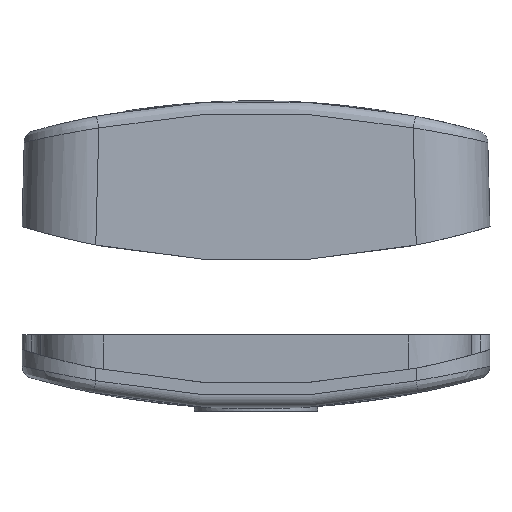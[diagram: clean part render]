
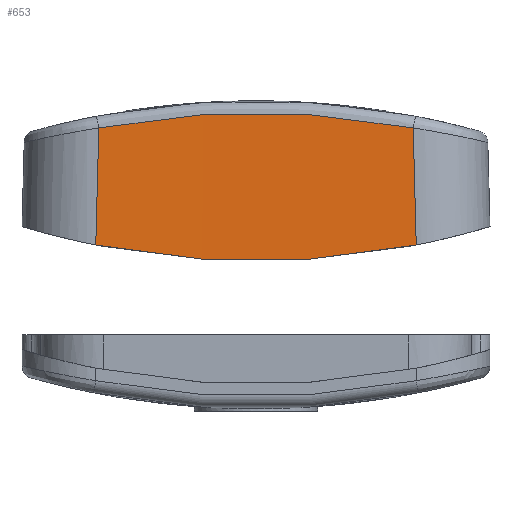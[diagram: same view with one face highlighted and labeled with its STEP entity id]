
A CAD part, front view. The second image highlights one B-rep face of the part: STEP entity #653.
In plain terms, the highlighted free-form (B-spline) face has degree [2, 1] with [3, 2] control points.
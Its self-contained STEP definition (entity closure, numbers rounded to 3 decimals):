
#308=(
BOUNDED_CURVE()
B_SPLINE_CURVE(3,(#8792,#8793,#8794,#8795,#8796,#8797,#8798,#8799,#8800,
#8801,#8802,#8803,#8804,#8805,#8806,#8807,#8808,#8809,#8810,#8811),
 .UNSPECIFIED.,.F.,.F.)
B_SPLINE_CURVE_WITH_KNOTS((4,1,1,1,1,1,1,1,1,1,1,1,1,1,1,1,1,4),(0.,0.07,
0.13,0.182,0.242,0.295,
0.355,0.407,0.467,0.52,
0.58,0.632,0.692,0.745,
0.805,0.857,0.91,1.),.UNSPECIFIED.)
CURVE()
GEOMETRIC_REPRESENTATION_ITEM()
RATIONAL_B_SPLINE_CURVE((1.,1.,1.,1.,1.,1.,1.,1.,1.,1.,1.,1.,1.,1.,1.,1.,
1.,1.,1.,1.))
REPRESENTATION_ITEM('')
);
#309=(
BOUNDED_CURVE()
B_SPLINE_CURVE(1,(#8814,#8815),.UNSPECIFIED.,.F.,.F.)
B_SPLINE_CURVE_WITH_KNOTS((2,2),(0.,1.),.UNSPECIFIED.)
CURVE()
GEOMETRIC_REPRESENTATION_ITEM()
RATIONAL_B_SPLINE_CURVE((1.,1.))
REPRESENTATION_ITEM('')
);
#310=(
BOUNDED_CURVE()
B_SPLINE_CURVE(2,(#8817,#8818,#8819),.UNSPECIFIED.,.F.,.F.)
B_SPLINE_CURVE_WITH_KNOTS((3,3),(0.,1.),.UNSPECIFIED.)
CURVE()
GEOMETRIC_REPRESENTATION_ITEM()
RATIONAL_B_SPLINE_CURVE((0.989,0.969,0.989))
REPRESENTATION_ITEM('')
);
#311=(
BOUNDED_CURVE()
B_SPLINE_CURVE(1,(#8821,#8822),.UNSPECIFIED.,.F.,.F.)
B_SPLINE_CURVE_WITH_KNOTS((2,2),(0.,1.),.UNSPECIFIED.)
CURVE()
GEOMETRIC_REPRESENTATION_ITEM()
RATIONAL_B_SPLINE_CURVE((1.,1.))
REPRESENTATION_ITEM('')
);
#653=ADVANCED_FACE('',(#1099),#866,.T.);
#866=(
BOUNDED_SURFACE()
B_SPLINE_SURFACE(2,1,((#8823,#8824),(#8825,#8826),(#8827,#8828)),
 .UNSPECIFIED.,.F.,.F.,.F.)
B_SPLINE_SURFACE_WITH_KNOTS((3,3),(2,2),(0.,1.),(0.,1.),.UNSPECIFIED.)
GEOMETRIC_REPRESENTATION_ITEM()
RATIONAL_B_SPLINE_SURFACE(((0.989,0.989),(0.969,
0.969),(0.989,0.989)))
REPRESENTATION_ITEM('')
SURFACE()
);
#1099=FACE_OUTER_BOUND('',#1376,.T.);
#1376=EDGE_LOOP('',(#2233,#2234,#2235,#2236));
#2233=ORIENTED_EDGE('',*,*,#3729,.F.);
#2234=ORIENTED_EDGE('',*,*,#3730,.F.);
#2235=ORIENTED_EDGE('',*,*,#3731,.F.);
#2236=ORIENTED_EDGE('',*,*,#3732,.F.);
#3158=VERTEX_POINT('',#8812);
#3159=VERTEX_POINT('',#8813);
#3160=VERTEX_POINT('',#8816);
#3161=VERTEX_POINT('',#8820);
#3729=EDGE_CURVE('',#3158,#3159,#308,.T.);
#3730=EDGE_CURVE('',#3160,#3158,#309,.T.);
#3731=EDGE_CURVE('',#3161,#3160,#310,.T.);
#3732=EDGE_CURVE('',#3159,#3161,#311,.T.);
#8792=CARTESIAN_POINT('',(-12.761,-29.75,10.799));
#8793=CARTESIAN_POINT('',(-12.177,-29.744,10.912));
#8794=CARTESIAN_POINT('',(-11.085,-29.733,11.109));
#8795=CARTESIAN_POINT('',(-9.544,-29.721,11.348));
#8796=CARTESIAN_POINT('',(-8.08,-29.711,11.542));
#8797=CARTESIAN_POINT('',(-6.675,-29.702,11.698));
#8798=CARTESIAN_POINT('',(-5.204,-29.695,11.829));
#8799=CARTESIAN_POINT('',(-3.794,-29.69,11.924));
#8800=CARTESIAN_POINT('',(-2.318,-29.687,11.991));
#8801=CARTESIAN_POINT('',(-0.905,-29.685,12.025));
#8802=CARTESIAN_POINT('',(0.572,-29.685,12.029));
#8803=CARTESIAN_POINT('',(1.985,-29.686,12.002));
#8804=CARTESIAN_POINT('',(3.461,-29.69,11.942));
#8805=CARTESIAN_POINT('',(4.871,-29.694,11.854));
#8806=CARTESIAN_POINT('',(6.343,-29.701,11.73));
#8807=CARTESIAN_POINT('',(7.749,-29.709,11.581));
#8808=CARTESIAN_POINT('',(9.15,-29.718,11.402));
#8809=CARTESIAN_POINT('',(10.802,-29.731,11.158));
#8810=CARTESIAN_POINT('',(12.004,-29.742,10.946));
#8811=CARTESIAN_POINT('',(12.761,-29.75,10.799));
#8812=CARTESIAN_POINT('',(-12.762,-29.75,10.799));
#8813=CARTESIAN_POINT('',(12.761,-29.75,10.799));
#8814=CARTESIAN_POINT('',(-13.011,-30.,1.295));
#8815=CARTESIAN_POINT('',(-12.762,-29.75,10.799));
#8816=CARTESIAN_POINT('',(-13.01,-30.,1.295));
#8817=CARTESIAN_POINT('',(13.01,-30.,1.295));
#8818=CARTESIAN_POINT('',(0.,-30.,-1.321));
#8819=CARTESIAN_POINT('',(-13.01,-30.,1.295));
#8820=CARTESIAN_POINT('',(13.01,-30.,1.295));
#8821=CARTESIAN_POINT('',(12.761,-29.75,10.799));
#8822=CARTESIAN_POINT('',(13.01,-30.,1.295));
#8823=CARTESIAN_POINT('',(-13.109,-30.003,1.215));
#8824=CARTESIAN_POINT('',(-13.109,-29.682,13.444));
#8825=CARTESIAN_POINT('',(0.,-30.003,-1.442));
#8826=CARTESIAN_POINT('',(0.,-29.682,10.788));
#8827=CARTESIAN_POINT('',(13.109,-30.003,1.215));
#8828=CARTESIAN_POINT('',(13.109,-29.682,13.444));
